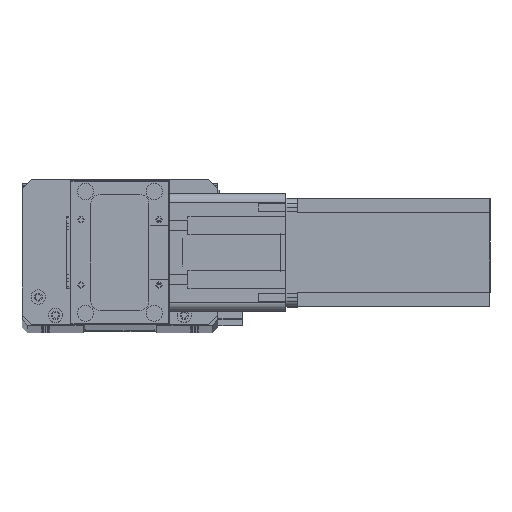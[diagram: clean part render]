
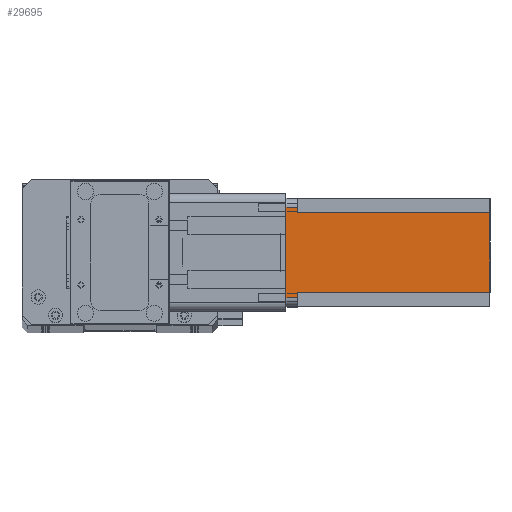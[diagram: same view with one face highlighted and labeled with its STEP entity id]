
A CAD part, top view. The second image highlights one B-rep face of the part: STEP entity #29695.
In plain terms, the highlighted planar face has unit normal (0, 0, 1) as drawn and (0, 1, 0) by its records, which use the part's own axes.
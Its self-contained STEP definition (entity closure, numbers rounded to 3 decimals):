
#147 = LINE ( 'NONE', #19387, #11240 ) ;
#258 = CARTESIAN_POINT ( 'NONE',  ( 5., 60., 0. ) ) ;
#503 = DIRECTION ( 'NONE',  ( -1., 0., 0. ) ) ;
#1089 = CARTESIAN_POINT ( 'NONE',  ( 5., 60., -6.5 ) ) ;
#1196 = CARTESIAN_POINT ( 'NONE',  ( 55., 60., -112.5 ) ) ;
#1380 = VECTOR ( 'NONE', #4722, 1000. ) ;
#1406 = VERTEX_POINT ( 'NONE', #4638 ) ;
#1745 = EDGE_CURVE ( 'NONE', #1406, #6618, #20334, .T. ) ;
#1797 = ORIENTED_EDGE ( 'NONE', *, *, #18519, .F. ) ;
#2252 = CARTESIAN_POINT ( 'NONE',  ( 52., 60., -112.5 ) ) ;
#2530 = CARTESIAN_POINT ( 'NONE',  ( 8., 60., -112.5 ) ) ;
#2581 = ORIENTED_EDGE ( 'NONE', *, *, #9616, .T. ) ;
#3307 = EDGE_CURVE ( 'NONE', #11073, #6528, #10529, .T. ) ;
#3585 = DIRECTION ( 'NONE',  ( 0., 0., -1. ) ) ;
#4638 = CARTESIAN_POINT ( 'NONE',  ( 55., 60., 0. ) ) ;
#4722 = DIRECTION ( 'NONE',  ( 0., 0., 1. ) ) ;
#5214 = CARTESIAN_POINT ( 'NONE',  ( 55., 60., -6.5 ) ) ;
#6446 = VECTOR ( 'NONE', #6910, 1000. ) ;
#6528 = VERTEX_POINT ( 'NONE', #9526 ) ;
#6618 = VERTEX_POINT ( 'NONE', #5214 ) ;
#6695 = CARTESIAN_POINT ( 'NONE',  ( 52., 60., -6.5 ) ) ;
#6910 = DIRECTION ( 'NONE',  ( 0., 0., 1. ) ) ;
#8232 = EDGE_LOOP ( 'NONE', ( #23542, #25709, #12822, #1797, #2581, #27457, #16969, #9413 ) ) ;
#9413 = ORIENTED_EDGE ( 'NONE', *, *, #28125, .T. ) ;
#9526 = CARTESIAN_POINT ( 'NONE',  ( 8., 60., -112.5 ) ) ;
#9616 = EDGE_CURVE ( 'NONE', #30037, #6528, #16839, .T. ) ;
#9689 = VECTOR ( 'NONE', #10174, 1000. ) ;
#10174 = DIRECTION ( 'NONE',  ( 1., 0., 0. ) ) ;
#10529 = LINE ( 'NONE', #2530, #28616 ) ;
#10896 = FACE_OUTER_BOUND ( 'NONE', #8232, .T. ) ;
#11073 = VERTEX_POINT ( 'NONE', #17170 ) ;
#11240 = VECTOR ( 'NONE', #503, 1000. ) ;
#11668 = DIRECTION ( 'NONE',  ( -1., 0., 0. ) ) ;
#12001 = EDGE_CURVE ( 'NONE', #1406, #14655, #21429, .T. ) ;
#12740 = DIRECTION ( 'NONE',  ( -1., 0., 0. ) ) ;
#12822 = ORIENTED_EDGE ( 'NONE', *, *, #24231, .F. ) ;
#13771 = AXIS2_PLACEMENT_3D ( 'NONE', #13916, #30438, #16290 ) ;
#13916 = CARTESIAN_POINT ( 'NONE',  ( 0., 60., -112.5 ) ) ;
#14052 = CARTESIAN_POINT ( 'NONE',  ( 0., 60., 0. ) ) ;
#14655 = VERTEX_POINT ( 'NONE', #258 ) ;
#16290 = DIRECTION ( 'NONE',  ( 0., 0., 1. ) ) ;
#16595 = VERTEX_POINT ( 'NONE', #1089 ) ;
#16649 = DIRECTION ( 'NONE',  ( 0., 0., -1. ) ) ;
#16839 = LINE ( 'NONE', #26873, #28955 ) ;
#16969 = ORIENTED_EDGE ( 'NONE', *, *, #18083, .T. ) ;
#17170 = CARTESIAN_POINT ( 'NONE',  ( 8., 60., -6.5 ) ) ;
#18083 = EDGE_CURVE ( 'NONE', #11073, #16595, #147, .T. ) ;
#18519 = EDGE_CURVE ( 'NONE', #30037, #30244, #18955, .T. ) ;
#18955 = LINE ( 'NONE', #2252, #6446 ) ;
#19387 = CARTESIAN_POINT ( 'NONE',  ( 8., 60., -6.5 ) ) ;
#20334 = LINE ( 'NONE', #1196, #25137 ) ;
#20915 = PLANE ( 'NONE',  #13771 ) ;
#21429 = LINE ( 'NONE', #14052, #26963 ) ;
#21933 = CARTESIAN_POINT ( 'NONE',  ( 52., 60., -6.5 ) ) ;
#23542 = ORIENTED_EDGE ( 'NONE', *, *, #12001, .F. ) ;
#24231 = EDGE_CURVE ( 'NONE', #30244, #6618, #28510, .T. ) ;
#25137 = VECTOR ( 'NONE', #3585, 1000. ) ;
#25709 = ORIENTED_EDGE ( 'NONE', *, *, #1745, .T. ) ;
#26466 = LINE ( 'NONE', #27793, #1380 ) ;
#26873 = CARTESIAN_POINT ( 'NONE',  ( 0., 60., -112.5 ) ) ;
#26963 = VECTOR ( 'NONE', #11668, 1000. ) ;
#26985 = CARTESIAN_POINT ( 'NONE',  ( 52., 60., -112.5 ) ) ;
#27457 = ORIENTED_EDGE ( 'NONE', *, *, #3307, .F. ) ;
#27793 = CARTESIAN_POINT ( 'NONE',  ( 5., 60., -112.5 ) ) ;
#28125 = EDGE_CURVE ( 'NONE', #16595, #14655, #26466, .T. ) ;
#28510 = LINE ( 'NONE', #21933, #9689 ) ;
#28616 = VECTOR ( 'NONE', #16649, 1000. ) ;
#28955 = VECTOR ( 'NONE', #12740, 1000. ) ;
#29695 = ADVANCED_FACE ( 'NONE', ( #10896 ), #20915, .T. ) ;
#30037 = VERTEX_POINT ( 'NONE', #26985 ) ;
#30244 = VERTEX_POINT ( 'NONE', #6695 ) ;
#30438 = DIRECTION ( 'NONE',  ( 0., 1., 0. ) ) ;
